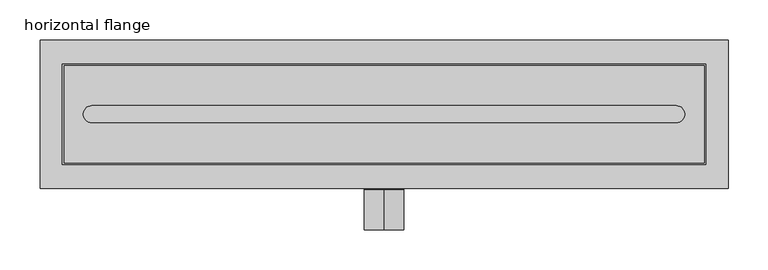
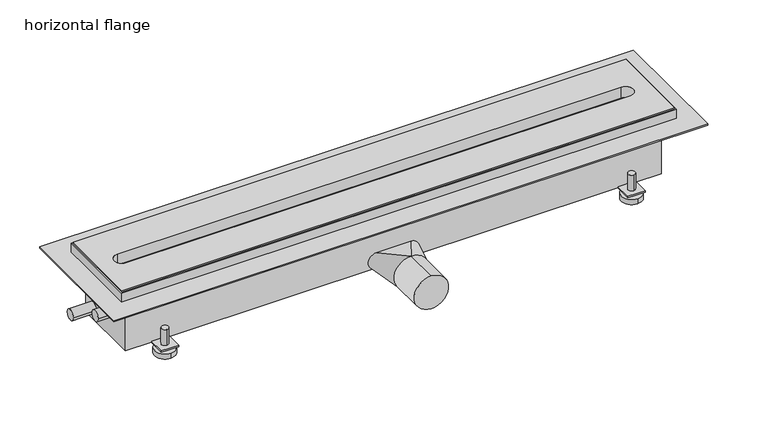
"""IFC4 building model written with IfcOpenShell, lengths in millimetres: sanitary terminal geometry, PF_ST_showerdrain X_Aco : horizontal flange."""

from ifc_helpers import new_model, si_unit, point, frame, frame_2d, origin, origin_with_axes, place, context, project, spatial, polyline, circle_curve, trimmed, segment, composite_curve, outline, extrude, faceted_brep, source, transform, mapped, element, save
from ifc_brep_helpers import plane_surface, cylinder_surface, spline_surface, advanced_brep


def horizontal_flange_0941f2cd(model_context):
    return source(origin(), model_context, "Body", "SolidModel", [
        advanced_brep(
        [(-338.0, 67.0, -60.0), (-338.0, 57.0, -60.0), (-338.0, 77.0, -98.0), (-338.0, 47.0, -98.0), (-338.0, 67.0, -90.0), (-338.0, 57.0, -90.0), (-338.0, 77.0, -90.0), (-338.0, 47.0, -90.0)],
        [
            (0, 1, circle_curve(frame((-338.0, 62.0, -60.0), z_axis=(0.0, 0.0, 1.0), x_axis=(0.0, -1.0, 0.0)), 5.0)),
            (1, 0, circle_curve(frame((-338.0, 62.0, -60.0), z_axis=(0.0, 0.0, 1.0), x_axis=(0.0, -1.0, 0.0)), 5.0)),
            (2, 3, circle_curve(frame((-338.0, 62.0, -98.0), z_axis=(0.0, 0.0, -1.0), x_axis=(0.0, -1.0, 0.0)), 15.0)),
            (3, 2, circle_curve(frame((-338.0, 62.0, -98.0), z_axis=(0.0, 0.0, -1.0), x_axis=(0.0, -1.0, 0.0)), 15.0)),
            (0, 4),
            (4, 5, circle_curve(frame((-338.0, 62.0, -90.0), z_axis=(0.0, 0.0, 1.0), x_axis=(0.0, -1.0, 0.0)), 5.0)),
            (5, 1),
            (5, 4, circle_curve(frame((-338.0, 62.0, -90.0), z_axis=(0.0, 0.0, 1.0), x_axis=(0.0, -1.0, 0.0)), 5.0)),
            (6, 7, circle_curve(frame((-338.0, 62.0, -90.0), z_axis=(0.0, 0.0, 1.0), x_axis=(0.0, -1.0, 0.0)), 15.0)),
            (7, 6, circle_curve(frame((-338.0, 62.0, -90.0), z_axis=(0.0, 0.0, 1.0), x_axis=(0.0, -1.0, 0.0)), 15.0)),
            (6, 2),
            (3, 7),
        ],
        [
            plane_surface(frame((-338.0, 57.0, -60.0), z_axis=(0.0, 0.0, 1.0), x_axis=(1.0, 0.0, 0.0))),
            plane_surface(frame((-338.0, 57.0, -98.0), z_axis=(0.0, 0.0, -1.0), x_axis=(-1.0, 0.0, 0.0))),
            cylinder_surface(frame((-338.0, 62.0, -98.0), z_axis=(0.0, 0.0, 1.0), x_axis=(0.0, -1.0, 0.0)), 5.0),
            plane_surface(frame((-338.0, 47.0, -90.0), z_axis=(0.0, 0.0, 1.0), x_axis=(1.0, 0.0, 0.0))),
            cylinder_surface(frame((-338.0, 62.0, -98.0), z_axis=(0.0, 0.0, 1.0), x_axis=(0.0, -1.0, 0.0)), 15.0),
        ],
        [
            (0, [[1, 2]]),
            (1, [[3, 4]]),
            (2, [[-1, 5, 6, 7]]),
            (2, [[-2, -7, 8, -5]]),
            (3, [[9, 10], [-6, -8]]),
            (4, [[-9, 11, -4, 12]]),
            (4, [[-10, -12, -3, -11]]),
        ],
    ),
        advanced_brep(
        [(-338.0, -56.5, -60.0), (-338.0, -66.5, -60.0), (-338.0, -46.5, -98.0), (-338.0, -76.5, -98.0), (-338.0, -56.5, -90.0), (-338.0, -66.5, -90.0), (-338.0, -46.5, -90.0), (-338.0, -76.5, -90.0)],
        [
            (0, 1, circle_curve(frame((-338.0, -61.5, -60.0), z_axis=(0.0, 0.0, 1.0), x_axis=(0.0, -1.0, 0.0)), 5.0)),
            (1, 0, circle_curve(frame((-338.0, -61.5, -60.0), z_axis=(0.0, 0.0, 1.0), x_axis=(0.0, -1.0, 0.0)), 5.0)),
            (2, 3, circle_curve(frame((-338.0, -61.5, -98.0), z_axis=(0.0, 0.0, -1.0), x_axis=(0.0, -1.0, 0.0)), 15.0)),
            (3, 2, circle_curve(frame((-338.0, -61.5, -98.0), z_axis=(0.0, 0.0, -1.0), x_axis=(0.0, -1.0, 0.0)), 15.0)),
            (0, 4),
            (4, 5, circle_curve(frame((-338.0, -61.5, -90.0), z_axis=(0.0, 0.0, 1.0), x_axis=(0.0, -1.0, 0.0)), 5.0)),
            (5, 1),
            (5, 4, circle_curve(frame((-338.0, -61.5, -90.0), z_axis=(0.0, 0.0, 1.0), x_axis=(0.0, -1.0, 0.0)), 5.0)),
            (6, 7, circle_curve(frame((-338.0, -61.5, -90.0), z_axis=(0.0, 0.0, 1.0), x_axis=(0.0, -1.0, 0.0)), 15.0)),
            (7, 6, circle_curve(frame((-338.0, -61.5, -90.0), z_axis=(0.0, 0.0, 1.0), x_axis=(0.0, -1.0, 0.0)), 15.0)),
            (6, 2),
            (3, 7),
        ],
        [
            plane_surface(frame((-338.0, 57.0, -60.0), z_axis=(0.0, 0.0, 1.0), x_axis=(1.0, 0.0, 0.0))),
            plane_surface(frame((-338.0, 57.0, -98.0), z_axis=(0.0, 0.0, -1.0), x_axis=(-1.0, 0.0, 0.0))),
            cylinder_surface(frame((-338.0, -61.5, -98.0), z_axis=(0.0, 0.0, 1.0), x_axis=(0.0, -1.0, 0.0)), 5.0),
            plane_surface(frame((-338.0, 47.0, -90.0), z_axis=(0.0, 0.0, 1.0), x_axis=(1.0, 0.0, 0.0))),
            cylinder_surface(frame((-338.0, -61.5, -98.0), z_axis=(0.0, 0.0, 1.0), x_axis=(0.0, -1.0, 0.0)), 15.0),
        ],
        [
            (0, [[1, 2]]),
            (1, [[3, 4]]),
            (2, [[-1, 5, 6, 7]]),
            (2, [[-2, -7, 8, -5]]),
            (3, [[9, 10], [-6, -8]]),
            (4, [[-9, 11, -4, 12]]),
            (4, [[-10, -12, -3, -11]]),
        ],
    ),
        advanced_brep(
        [(338.0, 67.0, -60.0), (338.0, 57.0, -60.0), (338.0, 77.0, -98.0), (338.0, 47.0, -98.0), (338.0, 67.0, -90.0), (338.0, 57.0, -90.0), (338.0, 77.0, -90.0), (338.0, 47.0, -90.0)],
        [
            (0, 1, circle_curve(frame((338.0, 62.0, -60.0), z_axis=(0.0, 0.0, 1.0), x_axis=(0.0, -1.0, 0.0)), 5.0)),
            (1, 0, circle_curve(frame((338.0, 62.0, -60.0), z_axis=(0.0, 0.0, 1.0), x_axis=(0.0, -1.0, 0.0)), 5.0)),
            (2, 3, circle_curve(frame((338.0, 62.0, -98.0), z_axis=(0.0, 0.0, -1.0), x_axis=(0.0, -1.0, 0.0)), 15.0)),
            (3, 2, circle_curve(frame((338.0, 62.0, -98.0), z_axis=(0.0, 0.0, -1.0), x_axis=(0.0, -1.0, 0.0)), 15.0)),
            (0, 4),
            (4, 5, circle_curve(frame((338.0, 62.0, -90.0), z_axis=(0.0, 0.0, 1.0), x_axis=(0.0, -1.0, 0.0)), 5.0)),
            (5, 1),
            (5, 4, circle_curve(frame((338.0, 62.0, -90.0), z_axis=(0.0, 0.0, 1.0), x_axis=(0.0, -1.0, 0.0)), 5.0)),
            (6, 7, circle_curve(frame((338.0, 62.0, -90.0), z_axis=(0.0, 0.0, 1.0), x_axis=(0.0, -1.0, 0.0)), 15.0)),
            (7, 6, circle_curve(frame((338.0, 62.0, -90.0), z_axis=(0.0, 0.0, 1.0), x_axis=(0.0, -1.0, 0.0)), 15.0)),
            (6, 2),
            (3, 7),
        ],
        [
            plane_surface(frame((-338.0, 57.0, -60.0), z_axis=(0.0, 0.0, 1.0), x_axis=(1.0, 0.0, 0.0))),
            plane_surface(frame((-338.0, 57.0, -98.0), z_axis=(0.0, 0.0, -1.0), x_axis=(-1.0, 0.0, 0.0))),
            cylinder_surface(frame((338.0, 62.0, -98.0), z_axis=(0.0, 0.0, 1.0), x_axis=(0.0, -1.0, 0.0)), 5.0),
            plane_surface(frame((-338.0, 47.0, -90.0), z_axis=(0.0, 0.0, 1.0), x_axis=(1.0, 0.0, 0.0))),
            cylinder_surface(frame((338.0, 62.0, -98.0), z_axis=(0.0, 0.0, 1.0), x_axis=(0.0, -1.0, 0.0)), 15.0),
        ],
        [
            (0, [[1, 2]]),
            (1, [[3, 4]]),
            (2, [[-1, 5, 6, 7]]),
            (2, [[-2, -7, 8, -5]]),
            (3, [[9, 10], [-6, -8]]),
            (4, [[-9, 11, -4, 12]]),
            (4, [[-10, -12, -3, -11]]),
        ],
    ),
        advanced_brep(
        [(338.0, -56.5, -60.0), (338.0, -66.5, -60.0), (338.0, -46.5, -98.0), (338.0, -76.5, -98.0), (338.0, -56.5, -90.0), (338.0, -66.5, -90.0), (338.0, -46.5, -90.0), (338.0, -76.5, -90.0)],
        [
            (0, 1, circle_curve(frame((338.0, -61.5, -60.0), z_axis=(0.0, 0.0, 1.0), x_axis=(0.0, -1.0, 0.0)), 5.0)),
            (1, 0, circle_curve(frame((338.0, -61.5, -60.0), z_axis=(0.0, 0.0, 1.0), x_axis=(0.0, -1.0, 0.0)), 5.0)),
            (2, 3, circle_curve(frame((338.0, -61.5, -98.0), z_axis=(0.0, 0.0, -1.0), x_axis=(0.0, -1.0, 0.0)), 15.0)),
            (3, 2, circle_curve(frame((338.0, -61.5, -98.0), z_axis=(0.0, 0.0, -1.0), x_axis=(0.0, -1.0, 0.0)), 15.0)),
            (0, 4),
            (4, 5, circle_curve(frame((338.0, -61.5, -90.0), z_axis=(0.0, 0.0, 1.0), x_axis=(0.0, -1.0, 0.0)), 5.0)),
            (5, 1),
            (5, 4, circle_curve(frame((338.0, -61.5, -90.0), z_axis=(0.0, 0.0, 1.0), x_axis=(0.0, -1.0, 0.0)), 5.0)),
            (6, 7, circle_curve(frame((338.0, -61.5, -90.0), z_axis=(0.0, 0.0, 1.0), x_axis=(0.0, -1.0, 0.0)), 15.0)),
            (7, 6, circle_curve(frame((338.0, -61.5, -90.0), z_axis=(0.0, 0.0, 1.0), x_axis=(0.0, -1.0, 0.0)), 15.0)),
            (6, 2),
            (3, 7),
        ],
        [
            plane_surface(frame((-338.0, 57.0, -60.0), z_axis=(0.0, 0.0, 1.0), x_axis=(1.0, 0.0, 0.0))),
            plane_surface(frame((-338.0, 57.0, -98.0), z_axis=(0.0, 0.0, -1.0), x_axis=(-1.0, 0.0, 0.0))),
            cylinder_surface(frame((338.0, -61.5, -98.0), z_axis=(0.0, 0.0, 1.0), x_axis=(0.0, -1.0, 0.0)), 5.0),
            plane_surface(frame((-338.0, 47.0, -90.0), z_axis=(0.0, 0.0, 1.0), x_axis=(1.0, 0.0, 0.0))),
            cylinder_surface(frame((338.0, -61.5, -98.0), z_axis=(0.0, 0.0, 1.0), x_axis=(0.0, -1.0, 0.0)), 15.0),
        ],
        [
            (0, [[1, 2]]),
            (1, [[3, 4]]),
            (2, [[-1, 5, 6, 7]]),
            (2, [[-2, -7, 8, -5]]),
            (3, [[9, 10], [-6, -8]]),
            (4, [[-9, 11, -4, 12]]),
            (4, [[-10, -12, -3, -11]]),
        ],
    ),
        advanced_brep(
        [(388.0, 50.0, -86.0), (388.0, -49.0, -86.0), (350.5, -49.0, -86.0), (350.5, -74.0, -86.0), (325.5, -74.0, -86.0), (325.5, -49.0, -86.0), (-325.5, -49.0, -86.0), (-325.5, -74.0, -86.0), (-350.5, -74.0, -86.0), (-350.5, -49.0, -86.0), (-388.0, -49.0, -86.0), (-388.0, 50.0, -86.0), (-350.5, 50.0, -86.0), (-350.5, 74.0, -86.0), (-325.5, 74.0, -86.0), (-325.5, 50.0, -86.0), (325.5, 50.0, -86.0), (325.5, 74.0, -86.0), (350.5, 74.0, -86.0), (350.5, 50.0, -86.0), (388.0, 50.0, -8.0), (-388.0, 50.0, -8.0), (-388.0, -49.0, -8.0), (388.0, -49.0, -8.0), (350.5, 50.0, -84.0), (325.5, 50.0, -84.0), (-325.5, 50.0, -84.0), (-350.5, 50.0, -84.0), (-388.0, 39.85, -68.0), (-388.0, 24.15, -68.0), (-388.0, -22.15, -32.0), (-388.0, -37.85, -32.0), (-350.5, -49.0, -84.0), (-325.5, -49.0, -84.0), (325.5, -49.0, -84.0), (350.5, -49.0, -84.0), (-421.0, 39.85, -68.0), (-421.0, 24.15, -68.0), (-421.0, -22.15, -32.0), (-421.0, -37.85, -32.0), (-325.5, 74.0, -84.0), (-350.5, 74.0, -84.0), (350.5, 74.0, -84.0), (325.5, 74.0, -84.0), (350.5, -74.0, -84.0), (325.5, -74.0, -84.0), (-350.5, -74.0, -84.0), (-325.5, -74.0, -84.0)],
        [
            (0, 1),
            (1, 2),
            (2, 3),
            (3, 4),
            (4, 5),
            (5, 6),
            (6, 7),
            (7, 8),
            (8, 9),
            (9, 10),
            (10, 11),
            (11, 12),
            (12, 13),
            (13, 14),
            (14, 15),
            (15, 16),
            (16, 17),
            (17, 18),
            (18, 19),
            (19, 0),
            (20, 21),
            (21, 22),
            (22, 23),
            (23, 20),
            (20, 0),
            (19, 24),
            (24, 25),
            (25, 16),
            (15, 26),
            (26, 27),
            (27, 12),
            (11, 21),
            (10, 22),
            (28, 29, circle_curve(frame((-388.0, 32.0, -68.0), z_axis=(1.0, 0.0, 0.0), x_axis=(0.0, -1.0, 0.0)), 7.85)),
            (29, 28, circle_curve(frame((-388.0, 32.0, -68.0), z_axis=(1.0, 0.0, 0.0), x_axis=(0.0, -1.0, 0.0)), 7.85)),
            (30, 31, circle_curve(frame((-388.0, -30.0, -32.0), z_axis=(1.0, 0.0, 0.0), x_axis=(0.0, -1.0, 0.0)), 7.85)),
            (31, 30, circle_curve(frame((-388.0, -30.0, -32.0), z_axis=(1.0, 0.0, 0.0), x_axis=(0.0, -1.0, 0.0)), 7.85)),
            (9, 32),
            (32, 33),
            (33, 6),
            (5, 34),
            (34, 35),
            (35, 2),
            (1, 23),
            (36, 37, circle_curve(frame((-421.0, 32.0, -68.0), z_axis=(-1.0, 0.0, 0.0), x_axis=(0.0, -1.0, 0.0)), 7.85)),
            (37, 36, circle_curve(frame((-421.0, 32.0, -68.0), z_axis=(-1.0, 0.0, 0.0), x_axis=(0.0, -1.0, 0.0)), 7.85)),
            (37, 29),
            (28, 36),
            (38, 39, circle_curve(frame((-421.0, -30.0, -32.0), z_axis=(-1.0, 0.0, 0.0), x_axis=(0.0, -1.0, 0.0)), 7.85)),
            (39, 38, circle_curve(frame((-421.0, -30.0, -32.0), z_axis=(-1.0, 0.0, 0.0), x_axis=(0.0, -1.0, 0.0)), 7.85)),
            (39, 31),
            (30, 38),
            (40, 41),
            (41, 27),
            (26, 40),
            (42, 43),
            (43, 25),
            (24, 42),
            (44, 35),
            (34, 45),
            (45, 44),
            (46, 47),
            (47, 33),
            (32, 46),
            (40, 14),
            (13, 41),
            (42, 18),
            (17, 43),
            (44, 3),
            (4, 45),
            (46, 8),
            (7, 47),
        ],
        [
            plane_surface(frame((-388.0, 50.0, -86.0), z_axis=(0.0, 0.0, -1.0), x_axis=(1.0, 0.0, 0.0))),
            plane_surface(frame((-388.0, 50.0, -8.0), z_axis=(0.0, 0.0, 1.0), x_axis=(-1.0, 0.0, 0.0))),
            plane_surface(frame((388.0, 50.0, -8.0), z_axis=(0.0, 1.0, 0.0), x_axis=(0.0, 0.0, -1.0))),
            plane_surface(frame((-388.0, 50.0, -8.0), z_axis=(-1.0, 0.0, 0.0), x_axis=(0.0, 0.0, -1.0))),
            plane_surface(frame((-388.0, -49.0, -8.0), z_axis=(0.0, -1.0, 0.0), x_axis=(0.0, 0.0, -1.0))),
            plane_surface(frame((388.0, -49.0, -8.0), z_axis=(1.0, 0.0, 0.0), x_axis=(0.0, 0.0, -1.0))),
            plane_surface(frame((-421.0, 32.0, -68.0), z_axis=(-1.0, 0.0, 0.0), x_axis=(0.0, 0.0, 1.0))),
            cylinder_surface(frame((0.0, 32.0, -68.0), z_axis=(1.0, 0.0, 0.0), x_axis=(0.0, -1.0, 0.0)), 7.85),
            plane_surface(frame((-421.0, -30.0, -32.0), z_axis=(-1.0, 0.0, 0.0), x_axis=(0.0, 0.0, 1.0))),
            cylinder_surface(frame((0.0, -30.0, -32.0), z_axis=(1.0, 0.0, 0.0), x_axis=(0.0, -1.0, 0.0)), 7.85),
            plane_surface(frame((-350.5, 74.0, -84.0), z_axis=(0.0, 0.0, 1.0), x_axis=(-1.0, 0.0, 0.0))),
            plane_surface(frame((-325.5, 74.0, -84.0), z_axis=(0.0, 1.0, 0.0), x_axis=(0.0, 0.0, -1.0))),
            plane_surface(frame((-350.5, 74.0, -84.0), z_axis=(-1.0, 0.0, 0.0), x_axis=(0.0, 0.0, -1.0))),
            plane_surface(frame((-325.5, 50.0, -84.0), z_axis=(1.0, 0.0, 0.0), x_axis=(0.0, 0.0, -1.0))),
            plane_surface(frame((350.5, 74.0, -84.0), z_axis=(0.0, 1.0, 0.0), x_axis=(0.0, 0.0, -1.0))),
            plane_surface(frame((325.5, 74.0, -84.0), z_axis=(-1.0, 0.0, 0.0), x_axis=(0.0, 0.0, -1.0))),
            plane_surface(frame((350.5, 50.0, -84.0), z_axis=(1.0, 0.0, 0.0), x_axis=(0.0, 0.0, -1.0))),
            plane_surface(frame((350.5, -74.0, -84.0), z_axis=(1.0, 0.0, 0.0), x_axis=(0.0, 0.0, -1.0))),
            plane_surface(frame((325.5, -49.0, -84.0), z_axis=(-1.0, 0.0, 0.0), x_axis=(0.0, 0.0, -1.0))),
            plane_surface(frame((325.5, -74.0, -84.0), z_axis=(0.0, -1.0, 0.0), x_axis=(0.0, 0.0, -1.0))),
            plane_surface(frame((-350.5, -74.0, -84.0), z_axis=(0.0, -1.0, 0.0), x_axis=(0.0, 0.0, -1.0))),
            plane_surface(frame((-325.5, -74.0, -84.0), z_axis=(1.0, 0.0, 0.0), x_axis=(0.0, 0.0, -1.0))),
            plane_surface(frame((-350.5, -49.0, -84.0), z_axis=(-1.0, 0.0, 0.0), x_axis=(0.0, 0.0, -1.0))),
        ],
        [
            (0, [[1, 2, 3, 4, 5, 6, 7, 8, 9, 10, 11, 12, 13, 14, 15, 16, 17, 18, 19, 20]]),
            (1, [[21, 22, 23, 24]]),
            (2, [[-21, 25, -20, 26, 27, 28, -16, 29, 30, 31, -12, 32]]),
            (3, [[-11, 33, -22, -32], [34, 35], [36, 37]]),
            (4, [[-23, -33, -10, 38, 39, 40, -6, 41, 42, 43, -2, 44]]),
            (5, [[-1, -25, -24, -44]]),
            (6, [[45, 46]]),
            (7, [[-46, 47, -34, 48]]),
            (7, [[-45, -48, -35, -47]]),
            (8, [[49, 50]]),
            (9, [[-50, 51, -36, 52]]),
            (9, [[-49, -52, -37, -51]]),
            (10, [[53, 54, -30, 55]]),
            (10, [[56, 57, -27, 58]]),
            (10, [[59, -42, 60, 61]]),
            (10, [[62, 63, -39, 64]]),
            (11, [[-53, 65, -14, 66]]),
            (12, [[-54, -66, -13, -31]]),
            (13, [[-55, -29, -15, -65]]),
            (14, [[-56, 67, -18, 68]]),
            (15, [[-57, -68, -17, -28]]),
            (16, [[-58, -26, -19, -67]]),
            (17, [[-59, 69, -3, -43]]),
            (18, [[-60, -41, -5, 70]]),
            (19, [[-61, -70, -4, -69]]),
            (20, [[-62, 71, -8, 72]]),
            (21, [[-63, -72, -7, -40]]),
            (22, [[-64, -38, -9, -71]]),
        ],
    ),
        extrude(outline(polyline([(400.0, 61.0), (400.0, -61.0), (-400.0, -61.0), (-400.0, 61.0), (400.0, 61.0)]), holes=[composite_curve([segment(polyline([(365.0860312, 10.6770786), (-365.0900069, 10.6770786)]), True, "CONTINUOUS"), segment(trimmed(circle_curve(frame_2d((-365.0900069, 0.0)), 10.6770786), [point((-365.0900069, 10.6770786))], [point((-365.0900069, -10.6770786))], True, "CARTESIAN"), True, "CONTINUOUS"), segment(polyline([(-365.0900069, -10.6770786), (365.0860312, -10.6770786)]), True, "CONTINUOUS"), segment(trimmed(circle_curve(frame_2d((365.0860312, 0.0)), 10.6770786), [point((365.0860312, -10.6770786))], [point((365.0860312, 10.6770786))], True, "CARTESIAN"), True, "CONTINUOUS")], self_intersect=False)]), origin_with_axes(), (0.0, 0.0, 1.0), 18.0),
        advanced_brep(
        [(0.0, -144.5, -99.0), (0.0, -144.5, -49.0), (0.0, -94.5, -99.0), (13.0, -94.5, -95.3541565), (13.0005627, -94.5, -52.6461861), (0.0, -94.5, -49.0), (-13.0, -94.5, -52.6458435), (-13.0, -94.5, -95.3541565), (25.0, -50.0, -86.0), (-25.0, -50.0, -86.0), (-25.0, -50.0, -62.0), (25.0, -50.0, -62.0)],
        [
            (0, 1, circle_curve(frame((0.0, -144.5, -74.0), z_axis=(0.0, -1.0, 0.0), x_axis=(0.0, 0.0, 1.0)), 25.0)),
            (1, 0, circle_curve(frame((0.0, -144.5, -74.0), z_axis=(0.0, -1.0, 0.0), x_axis=(0.0, 0.0, 1.0)), 25.0)),
            (0, 2),
            (2, 3, circle_curve(frame((0.0, -94.5, -74.0), z_axis=(0.0, -1.0, 0.0), x_axis=(0.0, 0.0, 1.0)), 25.0)),
            (3, 4, circle_curve(frame((0.0, -94.5, -74.0), z_axis=(0.0, -1.0, 0.0), x_axis=(0.0, 0.0, 1.0)), 25.0)),
            (4, 5, circle_curve(frame((0.0, -94.5, -74.0), z_axis=(0.0, -1.0, 0.0), x_axis=(0.0, 0.0, 1.0)), 25.0)),
            (5, 1),
            (5, 6, circle_curve(frame((0.0, -94.5, -74.0), z_axis=(0.0, -1.0, 0.0), x_axis=(0.0, 0.0, 1.0)), 25.0)),
            (6, 7, circle_curve(frame((0.0, -94.5, -74.0), z_axis=(0.0, -1.0, 0.0), x_axis=(0.0, 0.0, 1.0)), 25.0)),
            (7, 2, circle_curve(frame((0.0, -94.5, -74.0), z_axis=(0.0, -1.0, 0.0), x_axis=(0.0, 0.0, 1.0)), 25.0)),
            (8, 9),
            (9, 10, circle_curve(frame((-25.0, -50.0, -74.0), z_axis=(0.0, 1.0, 0.0), x_axis=(0.0, 0.0, 1.0)), 12.0)),
            (10, 11),
            (11, 8, circle_curve(frame((25.0, -50.0, -74.0), z_axis=(0.0, 1.0, 0.0), x_axis=(0.0, 0.0, 1.0)), 12.0)),
            (8, 2),
            (2, 9),
            (5, 10),
            (5, 11),
        ],
        [
            plane_surface(frame((0.0, -144.5, -74.0), z_axis=(0.0, -1.0, 0.0), x_axis=(1.0, 0.0, 0.0))),
            cylinder_surface(frame((0.0, -144.5, -74.0), z_axis=(0.0, -1.0, 0.0), x_axis=(0.0, 0.0, 1.0)), 25.0),
            plane_surface(frame((0.0, -50.0, -74.0), z_axis=(0.0, 1.0, 0.0), x_axis=(-1.0, 0.0, 0.0))),
            plane_surface(frame((0.0, -94.5, -99.0), z_axis=(0.0, 0.2804141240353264, -0.9598791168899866), x_axis=(-1.0, 0.0, 0.0))),
            spline_surface(2, 1, [[(0.0, -94.5, -99.0), (-25.0, -50.0, -86.0)], [(-25.0, -94.5, -99.0), (-37.0, -50.0, -86.0)], [(-25.0, -94.5, -74.0), (-37.0, -50.0, -74.0)], [(-25.0, -94.5, -49.0), (-37.0, -50.0, -62.0)], [(0.0, -94.5, -49.0), (-25.0, -50.0, -62.0)]], [3, 2, 3], [2, 2], [0.0, 1.0, 2.0], [0.0, 1.0], weights=[[1.0, 1.0], [0.7071067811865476, 0.7071067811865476], [1.0, 1.0], [0.7071067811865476, 0.7071067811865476], [1.0, 1.0]]),
            plane_surface(frame((0.0, -94.5, -49.0), z_axis=(0.0, 0.2804141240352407, 0.9598791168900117), x_axis=(1.0, 0.0, 0.0))),
            spline_surface(2, 1, [[(0.0, -94.5, -49.0), (25.0, -50.0, -62.0)], [(25.0, -94.5, -49.0), (37.0, -50.0, -62.0)], [(25.0, -94.5, -74.0), (37.0, -50.0, -74.0)], [(25.0, -94.5, -99.0), (37.0, -50.0, -86.0)], [(0.0, -94.5, -99.0), (25.0, -50.0, -86.0)]], [3, 2, 3], [2, 2], [0.0, 1.0, 2.0], [0.0, 1.0], weights=[[1.0, 1.0], [0.7071067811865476, 0.7071067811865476], [1.0, 1.0], [0.7071067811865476, 0.7071067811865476], [1.0, 1.0]]),
        ],
        [
            (0, [[1, 2]]),
            (1, [[-1, 3, 4, 5, 6, 7]]),
            (1, [[-2, -7, 8, 9, 10, -3]]),
            (2, [[11, 12, 13, 14]]),
            (3, [[-11, 15, 16]]),
            (4, [[-12, -16, -10, -9, -8, 17]]),
            (5, [[-13, -17, 18]]),
            (6, [[-14, -18, -6, -5, -4, -15]]),
        ],
    ),
        extrude(outline(polyline([(430.0, 93.0), (430.0, -93.0), (-430.0, -93.0), (-430.0, 93.0), (430.0, 93.0)])), origin_with_axes(), (0.0, 0.0, 1.0), 2.0),
        faceted_brep([(402.0, 63.0, 16.0), (-402.0, 63.0, 16.0), (-402.0, -63.0, 16.0), (402.0, -63.0, 16.0), (-400.0, 61.0, 16.0), (400.0, 61.0, 16.0), (400.0, -61.0, 16.0), (-400.0, -61.0, 16.0), (402.0, 63.0, -8.0), (402.0, -63.0, -8.0), (-402.0, -63.0, -8.0), (-402.0, 63.0, -8.0), (400.0, 61.0, -6.0), (-400.0, 61.0, -6.0), (-400.0, -61.0, -6.0), (400.0, -61.0, -6.0)], [[[0, 1, 2, 3], [4, 5, 6, 7]], [[8, 9, 10, 11]], [[1, 0, 8, 11]], [[2, 1, 11, 10]], [[3, 2, 10, 9]], [[0, 3, 9, 8]], [[12, 13, 14, 15]], [[13, 12, 5, 4]], [[14, 13, 4, 7]], [[15, 14, 7, 6]], [[12, 15, 6, 5]]]),
    ])


if __name__ == "__main__":
    model = new_model("IFC4")
    model_context = context("Model", 3, world=origin())
    ifc_project = project(units=[si_unit("LENGTHUNIT", "METRE", prefix="MILLI")], contexts=[model_context])
    site = spatial("IfcSite", under=ifc_project)
    building = spatial("IfcBuilding", under=site)
    placement = place(None, origin())
    horizontal_flange_shape = horizontal_flange_0941f2cd(model_context)
    element("IfcSanitaryTerminal", 1, ObjectType="PF_ST_showerdrain X_Aco : horizontal flange", at=placement, inside=building, context=model_context, shape_type="MappedRepresentation", body=[
        mapped(horizontal_flange_shape, transform((0.0, 0.0, 0.0), x_axis=(1.0, 0.0, 0.0), y_axis=(0.0, 1.0, 0.0), z_axis=(0.0, 0.0, 1.0))),
    ])
    save(model, "model.ifc")
